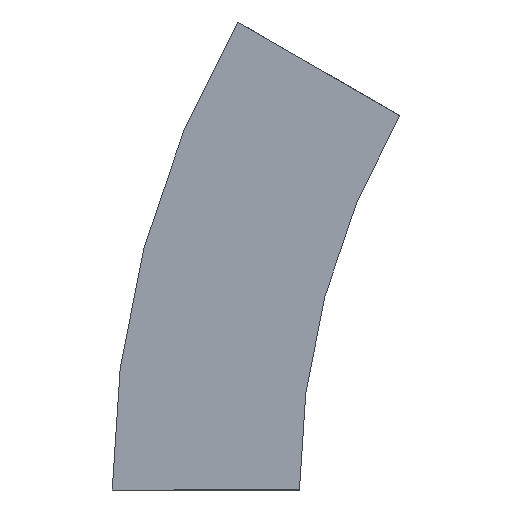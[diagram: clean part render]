
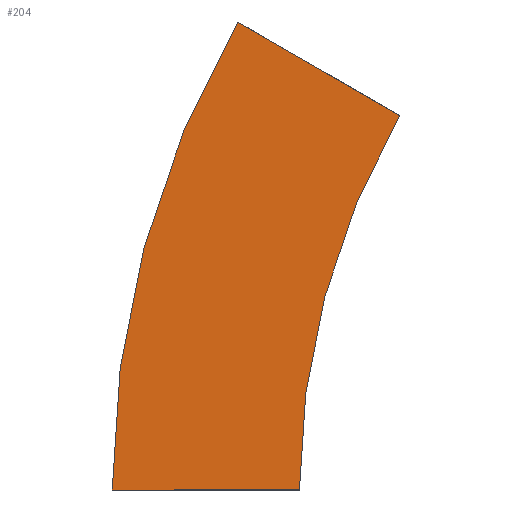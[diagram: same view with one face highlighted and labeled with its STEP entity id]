
A CAD part, left-side view. The second image highlights one B-rep face of the part: STEP entity #204.
In plain terms, the highlighted planar face has unit normal (-1, 0, 0) as drawn and (1, 0, 0) by its records, which use the part's own axes.
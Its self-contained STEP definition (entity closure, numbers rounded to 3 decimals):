
#43 = CARTESIAN_POINT ( 'NONE',  ( 0., 0., 0. ) ) ;
#44 = VERTEX_POINT ( 'NONE', #405 ) ;
#51 = EDGE_CURVE ( 'NONE', #312, #331, #562, .T. ) ;
#69 = ORIENTED_EDGE ( 'NONE', *, *, #81, .F. ) ;
#70 = AXIS2_PLACEMENT_3D ( 'NONE', #500, #403, #356 ) ;
#81 = EDGE_CURVE ( 'NONE', #312, #44, #222, .T. ) ;
#82 = DIRECTION ( 'NONE',  ( 1., 0., 0. ) ) ;
#126 = CARTESIAN_POINT ( 'NONE',  ( 0., 24.76, 187.5 ) ) ;
#141 = AXIS2_PLACEMENT_3D ( 'NONE', #168, #179, #297 ) ;
#168 = CARTESIAN_POINT ( 'NONE',  ( 0., -300., 0. ) ) ;
#179 = DIRECTION ( 'NONE',  ( 1., 0., 0. ) ) ;
#204 = ADVANCED_FACE ( 'NONE', ( #248 ), #328, .T. ) ;
#210 = CARTESIAN_POINT ( 'NONE',  ( 0., 0., 0. ) ) ;
#216 = CIRCLE ( 'NONE', #141, 375. ) ;
#222 = CIRCLE ( 'NONE', #70, 300. ) ;
#228 = ORIENTED_EDGE ( 'NONE', *, *, #51, .T. ) ;
#245 = LINE ( 'NONE', #556, #372 ) ;
#248 = FACE_OUTER_BOUND ( 'NONE', #265, .T. ) ;
#249 = ORIENTED_EDGE ( 'NONE', *, *, #304, .T. ) ;
#250 = EDGE_CURVE ( 'NONE', #44, #257, #245, .T. ) ;
#257 = VERTEX_POINT ( 'NONE', #126 ) ;
#265 = EDGE_LOOP ( 'NONE', ( #249, #303, #69, #228 ) ) ;
#297 = DIRECTION ( 'NONE',  ( 0., 1., 0. ) ) ;
#303 = ORIENTED_EDGE ( 'NONE', *, *, #250, .F. ) ;
#304 = EDGE_CURVE ( 'NONE', #331, #257, #216, .T. ) ;
#312 = VERTEX_POINT ( 'NONE', #210 ) ;
#321 = VECTOR ( 'NONE', #473, 1000. ) ;
#328 = PLANE ( 'NONE',  #347 ) ;
#331 = VERTEX_POINT ( 'NONE', #464 ) ;
#347 = AXIS2_PLACEMENT_3D ( 'NONE', #546, #82, #416 ) ;
#356 = DIRECTION ( 'NONE',  ( 0., 1., 0. ) ) ;
#372 = VECTOR ( 'NONE', #437, 1000. ) ;
#403 = DIRECTION ( 'NONE',  ( 1., 0., 0. ) ) ;
#405 = CARTESIAN_POINT ( 'NONE',  ( 0., -40.192, 150. ) ) ;
#416 = DIRECTION ( 'NONE',  ( 0., 0., -1. ) ) ;
#437 = DIRECTION ( 'NONE',  ( 0., 0.866, 0.5 ) ) ;
#464 = CARTESIAN_POINT ( 'NONE',  ( 0., 75., 0. ) ) ;
#473 = DIRECTION ( 'NONE',  ( 0., 1., 0. ) ) ;
#500 = CARTESIAN_POINT ( 'NONE',  ( 0., -300., 0. ) ) ;
#546 = CARTESIAN_POINT ( 'NONE',  ( 0., 0., 0. ) ) ;
#556 = CARTESIAN_POINT ( 'NONE',  ( 0., -40.192, 150. ) ) ;
#562 = LINE ( 'NONE', #43, #321 ) ;
